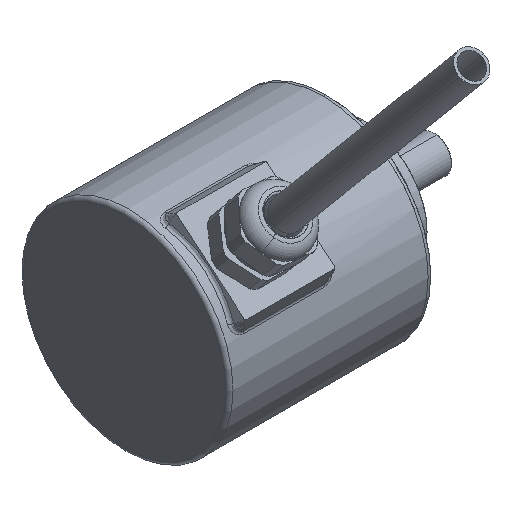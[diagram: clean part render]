
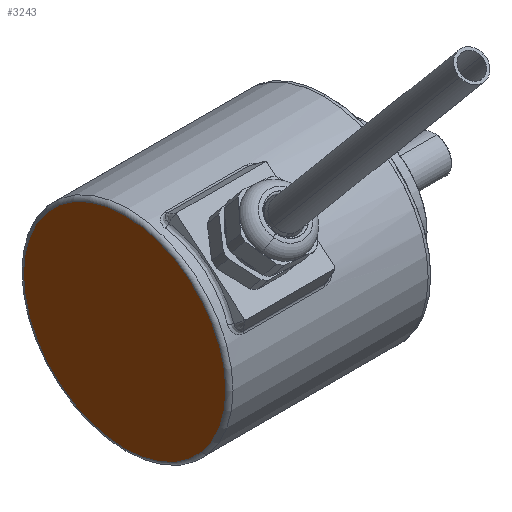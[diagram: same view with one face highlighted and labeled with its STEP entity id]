
A CAD part, isometric view. The second image highlights one B-rep face of the part: STEP entity #3243.
In plain terms, the highlighted planar face has unit normal (-1, 0, 0).
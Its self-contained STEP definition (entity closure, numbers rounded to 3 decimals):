
#338 = CARTESIAN_POINT ( 'NONE',  ( -40., 21.46, 17.986 ) ) ;
#339 = CARTESIAN_POINT ( 'NONE',  ( -40., -21.46, -17.986 ) ) ;
#685 = DIRECTION ( 'NONE',  ( 0., 0.766, 0.642 ) ) ;
#686 = DIRECTION ( 'NONE',  ( -1., 0., 0. ) ) ;
#687 = CARTESIAN_POINT ( 'NONE',  ( -40., 0., 0. ) ) ;
#688 = AXIS2_PLACEMENT_3D ( 'NONE', #687, #686, #685 ) ;
#693 = CIRCLE ( 'NONE', #688, 28. ) ;
#886 = DIRECTION ( 'NONE',  ( 0., 0.766, 0.642 ) ) ;
#887 = DIRECTION ( 'NONE',  ( 1., 0., 0. ) ) ;
#888 = CARTESIAN_POINT ( 'NONE',  ( -40., 0., 0. ) ) ;
#889 = AXIS2_PLACEMENT_3D ( 'NONE', #888, #887, #886 ) ;
#890 = PLANE ( 'NONE',  #889 ) ;
#977 = FACE_OUTER_BOUND ( 'NONE', #3381, .T. ) ;
#2990 = ORIENTED_EDGE ( 'NONE', *, *, #3207, .T. ) ;
#3079 = VERTEX_POINT ( 'NONE', #339 ) ;
#3080 = VERTEX_POINT ( 'NONE', #338 ) ;
#3207 = EDGE_CURVE ( 'NONE', #3079, #3080, #693, .T. ) ;
#3243 = ADVANCED_FACE ( 'NONE', ( #977 ), #890, .F. ) ;
#3304 = ORIENTED_EDGE ( 'NONE', *, *, #3382, .T. ) ;
#3381 = EDGE_LOOP ( 'NONE', ( #3304, #2990 ) ) ;
#3382 = EDGE_CURVE ( 'NONE', #3080, #3079, #4985, .T. ) ;
#4849 = CARTESIAN_POINT ( 'NONE',  ( -40., 0., 0. ) ) ;
#4982 = DIRECTION ( 'NONE',  ( 0., 0.766, 0.642 ) ) ;
#4983 = DIRECTION ( 'NONE',  ( -1., 0., 0. ) ) ;
#4984 = AXIS2_PLACEMENT_3D ( 'NONE', #4849, #4983, #4982 ) ;
#4985 = CIRCLE ( 'NONE', #4984, 28. ) ;
